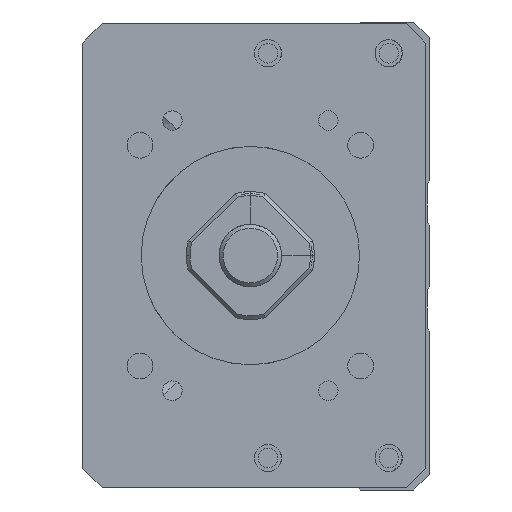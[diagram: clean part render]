
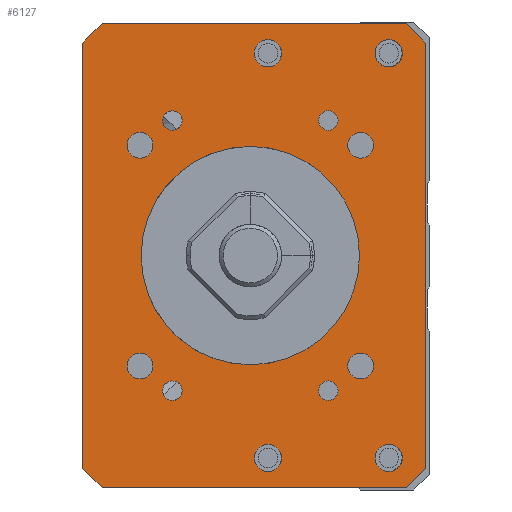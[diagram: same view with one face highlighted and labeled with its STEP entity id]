
A CAD part, left-side view. The second image highlights one B-rep face of the part: STEP entity #6127.
In plain terms, the highlighted planar face has unit normal (-1, 0, 0).
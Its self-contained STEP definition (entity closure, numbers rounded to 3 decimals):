
#3849=LINE('',#18542,#4664);
#3851=LINE('',#18566,#4666);
#3852=LINE('',#18568,#4667);
#3853=LINE('',#18570,#4668);
#3854=LINE('',#18572,#4669);
#3855=LINE('',#18574,#4670);
#3856=LINE('',#18576,#4671);
#3857=LINE('',#18578,#4672);
#4664=VECTOR('',#15530,1.);
#4666=VECTOR('',#15554,1.);
#4667=VECTOR('',#15555,1.);
#4668=VECTOR('',#15556,1.);
#4669=VECTOR('',#15557,1.);
#4670=VECTOR('',#15558,1.);
#4671=VECTOR('',#15559,1.);
#4672=VECTOR('',#15560,1.);
#5649=FACE_BOUND('',#7624,.T.);
#5650=FACE_BOUND('',#7625,.T.);
#5651=FACE_BOUND('',#7626,.T.);
#5652=FACE_BOUND('',#7627,.T.);
#5653=FACE_BOUND('',#7628,.T.);
#5654=FACE_BOUND('',#7629,.T.);
#5655=FACE_BOUND('',#7630,.T.);
#5656=FACE_BOUND('',#7631,.T.);
#5657=FACE_BOUND('',#7632,.T.);
#5658=FACE_BOUND('',#7633,.T.);
#5659=FACE_BOUND('',#7634,.T.);
#5660=FACE_BOUND('',#7635,.T.);
#5661=FACE_BOUND('',#7636,.T.);
#5662=FACE_BOUND('',#7637,.T.);
#6127=ADVANCED_FACE('',(#5649,#5650,#5651,#5652,#5653,#5654,#5655,#5656,
#5657,#5658,#5659,#5660,#5661,#5662),#6697,.F.);
#6697=PLANE('',#14136);
#7624=EDGE_LOOP('',(#8893));
#7625=EDGE_LOOP('',(#8894));
#7626=EDGE_LOOP('',(#8895));
#7627=EDGE_LOOP('',(#8896));
#7628=EDGE_LOOP('',(#8897));
#7629=EDGE_LOOP('',(#8898));
#7630=EDGE_LOOP('',(#8899));
#7631=EDGE_LOOP('',(#8900));
#7632=EDGE_LOOP('',(#8901));
#7633=EDGE_LOOP('',(#8902,#8903,#8904,#8905,#8906,#8907,#8908,#8909));
#7634=EDGE_LOOP('',(#8910));
#7635=EDGE_LOOP('',(#8911));
#7636=EDGE_LOOP('',(#8912));
#7637=EDGE_LOOP('',(#8913));
#8893=ORIENTED_EDGE('',*,*,#12403,.F.);
#8894=ORIENTED_EDGE('',*,*,#12404,.F.);
#8895=ORIENTED_EDGE('',*,*,#12405,.F.);
#8896=ORIENTED_EDGE('',*,*,#12406,.F.);
#8897=ORIENTED_EDGE('',*,*,#12407,.F.);
#8898=ORIENTED_EDGE('',*,*,#12408,.T.);
#8899=ORIENTED_EDGE('',*,*,#12409,.F.);
#8900=ORIENTED_EDGE('',*,*,#12410,.F.);
#8901=ORIENTED_EDGE('',*,*,#12411,.F.);
#8902=ORIENTED_EDGE('',*,*,#12400,.T.);
#8903=ORIENTED_EDGE('',*,*,#12412,.T.);
#8904=ORIENTED_EDGE('',*,*,#12413,.F.);
#8905=ORIENTED_EDGE('',*,*,#12414,.T.);
#8906=ORIENTED_EDGE('',*,*,#12415,.F.);
#8907=ORIENTED_EDGE('',*,*,#12416,.T.);
#8908=ORIENTED_EDGE('',*,*,#12417,.T.);
#8909=ORIENTED_EDGE('',*,*,#12418,.T.);
#8910=ORIENTED_EDGE('',*,*,#12419,.F.);
#8911=ORIENTED_EDGE('',*,*,#12420,.F.);
#8912=ORIENTED_EDGE('',*,*,#12421,.F.);
#8913=ORIENTED_EDGE('',*,*,#12380,.F.);
#11319=VERTEX_POINT('',#18481);
#11339=VERTEX_POINT('',#18541);
#11340=VERTEX_POINT('',#18543);
#11342=VERTEX_POINT('',#18549);
#11343=VERTEX_POINT('',#18551);
#11344=VERTEX_POINT('',#18553);
#11345=VERTEX_POINT('',#18555);
#11346=VERTEX_POINT('',#18557);
#11347=VERTEX_POINT('',#18559);
#11348=VERTEX_POINT('',#18561);
#11349=VERTEX_POINT('',#18563);
#11350=VERTEX_POINT('',#18565);
#11351=VERTEX_POINT('',#18567);
#11352=VERTEX_POINT('',#18569);
#11353=VERTEX_POINT('',#18571);
#11354=VERTEX_POINT('',#18573);
#11355=VERTEX_POINT('',#18575);
#11356=VERTEX_POINT('',#18577);
#11357=VERTEX_POINT('',#18580);
#11358=VERTEX_POINT('',#18582);
#11359=VERTEX_POINT('',#18584);
#12380=EDGE_CURVE('',#11319,#11319,#13605,.T.);
#12400=EDGE_CURVE('',#11340,#11339,#3849,.T.);
#12403=EDGE_CURVE('',#11342,#11342,#13614,.T.);
#12404=EDGE_CURVE('',#11343,#11343,#13615,.T.);
#12405=EDGE_CURVE('',#11344,#11344,#13616,.T.);
#12406=EDGE_CURVE('',#11345,#11345,#13617,.T.);
#12407=EDGE_CURVE('',#11346,#11346,#13618,.T.);
#12408=EDGE_CURVE('',#11347,#11347,#13619,.T.);
#12409=EDGE_CURVE('',#11348,#11348,#13620,.T.);
#12410=EDGE_CURVE('',#11349,#11349,#13621,.T.);
#12411=EDGE_CURVE('',#11350,#11350,#13622,.T.);
#12412=EDGE_CURVE('',#11339,#11351,#3851,.T.);
#12413=EDGE_CURVE('',#11352,#11351,#3852,.T.);
#12414=EDGE_CURVE('',#11352,#11353,#3853,.T.);
#12415=EDGE_CURVE('',#11354,#11353,#3854,.T.);
#12416=EDGE_CURVE('',#11354,#11355,#3855,.T.);
#12417=EDGE_CURVE('',#11355,#11356,#3856,.T.);
#12418=EDGE_CURVE('',#11356,#11340,#3857,.T.);
#12419=EDGE_CURVE('',#11357,#11357,#13623,.T.);
#12420=EDGE_CURVE('',#11358,#11358,#13624,.T.);
#12421=EDGE_CURVE('',#11359,#11359,#13625,.T.);
#13605=CIRCLE('',#14113,14.);
#13614=CIRCLE('',#14124,1.65);
#13615=CIRCLE('',#14125,1.65);
#13616=CIRCLE('',#14126,1.65);
#13617=CIRCLE('',#14127,1.65);
#13618=CIRCLE('',#14128,1.25);
#13619=CIRCLE('',#14129,1.75);
#13620=CIRCLE('',#14130,1.25);
#13621=CIRCLE('',#14131,1.75);
#13622=CIRCLE('',#14132,1.25);
#13623=CIRCLE('',#14133,1.75);
#13624=CIRCLE('',#14134,1.75);
#13625=CIRCLE('',#14135,1.25);
#14113=AXIS2_PLACEMENT_3D('',#18480,#15504,#15505);
#14124=AXIS2_PLACEMENT_3D('',#18548,#15536,#15537);
#14125=AXIS2_PLACEMENT_3D('',#18550,#15538,#15539);
#14126=AXIS2_PLACEMENT_3D('',#18552,#15540,#15541);
#14127=AXIS2_PLACEMENT_3D('',#18554,#15542,#15543);
#14128=AXIS2_PLACEMENT_3D('',#18556,#15544,#15545);
#14129=AXIS2_PLACEMENT_3D('',#18558,#15546,#15547);
#14130=AXIS2_PLACEMENT_3D('',#18560,#15548,#15549);
#14131=AXIS2_PLACEMENT_3D('',#18562,#15550,#15551);
#14132=AXIS2_PLACEMENT_3D('',#18564,#15552,#15553);
#14133=AXIS2_PLACEMENT_3D('',#18579,#15561,#15562);
#14134=AXIS2_PLACEMENT_3D('',#18581,#15563,#15564);
#14135=AXIS2_PLACEMENT_3D('',#18583,#15565,#15566);
#14136=AXIS2_PLACEMENT_3D('',#18585,#15567,#15568);
#15504=DIRECTION('',(-1.,0.,0.));
#15505=DIRECTION('',(0.,1.,0.));
#15530=DIRECTION('',(0.,0.,-1.));
#15536=DIRECTION('',(-1.,0.,0.));
#15537=DIRECTION('',(0.,0.,1.));
#15538=DIRECTION('',(-1.,0.,0.));
#15539=DIRECTION('',(0.,0.,1.));
#15540=DIRECTION('',(-1.,0.,0.));
#15541=DIRECTION('',(0.,0.,1.));
#15542=DIRECTION('',(-1.,0.,0.));
#15543=DIRECTION('',(0.,0.,1.));
#15544=DIRECTION('',(-1.,0.,0.));
#15545=DIRECTION('',(0.,1.,0.));
#15546=DIRECTION('',(1.,0.,0.));
#15547=DIRECTION('',(0.,0.,1.));
#15548=DIRECTION('',(-1.,0.,0.));
#15549=DIRECTION('',(0.,1.,0.));
#15550=DIRECTION('',(-1.,0.,0.));
#15551=DIRECTION('',(0.,0.,1.));
#15552=DIRECTION('',(-1.,0.,0.));
#15553=DIRECTION('',(0.,1.,0.));
#15554=DIRECTION('',(0.,-0.707,-0.707));
#15555=DIRECTION('',(0.,1.,0.));
#15556=DIRECTION('',(0.,-0.707,0.707));
#15557=DIRECTION('',(0.,0.,-1.));
#15558=DIRECTION('',(0.,0.707,0.707));
#15559=DIRECTION('',(0.,1.,0.));
#15560=DIRECTION('',(0.,0.707,-0.707));
#15561=DIRECTION('',(-1.,0.,0.));
#15562=DIRECTION('',(0.,0.,1.));
#15563=DIRECTION('',(-1.,0.,0.));
#15564=DIRECTION('',(0.,0.,1.));
#15565=DIRECTION('',(-1.,0.,0.));
#15566=DIRECTION('',(0.,1.,0.));
#15567=DIRECTION('',(1.,0.,0.));
#15568=DIRECTION('',(0.,1.,0.));
#18480=CARTESIAN_POINT('',(-211.,0.,-200.));
#18481=CARTESIAN_POINT('',(-211.,14.,-200.));
#18541=CARTESIAN_POINT('',(-211.,21.499,-227.25));
#18542=CARTESIAN_POINT('',(-211.,21.499,-170.25));
#18543=CARTESIAN_POINT('',(-211.,21.499,-172.75));
#18548=CARTESIAN_POINT('',(-211.,14.142,-185.858));
#18549=CARTESIAN_POINT('',(-211.,14.142,-184.208));
#18550=CARTESIAN_POINT('',(-211.,-14.142,-185.858));
#18551=CARTESIAN_POINT('',(-211.,-14.142,-184.208));
#18552=CARTESIAN_POINT('',(-211.,14.142,-214.142));
#18553=CARTESIAN_POINT('',(-211.,14.142,-212.492));
#18554=CARTESIAN_POINT('',(-211.,-14.142,-214.142));
#18555=CARTESIAN_POINT('',(-211.,-14.142,-212.492));
#18556=CARTESIAN_POINT('',(-211.,-10.,-217.321));
#18557=CARTESIAN_POINT('',(-211.,-8.75,-217.321));
#18558=CARTESIAN_POINT('',(-211.,-2.25,-225.936));
#18559=CARTESIAN_POINT('',(-211.,-2.25,-224.186));
#18560=CARTESIAN_POINT('',(-211.,10.,-182.679));
#18561=CARTESIAN_POINT('',(-211.,11.25,-182.679));
#18562=CARTESIAN_POINT('',(-211.,-2.25,-174.064));
#18563=CARTESIAN_POINT('',(-211.,-2.25,-172.314));
#18564=CARTESIAN_POINT('',(-211.,10.,-217.321));
#18565=CARTESIAN_POINT('',(-211.,11.25,-217.321));
#18566=CARTESIAN_POINT('',(-211.,18.999,-229.75));
#18567=CARTESIAN_POINT('',(-211.,18.999,-229.75));
#18568=CARTESIAN_POINT('',(-211.,-22.501,-229.75));
#18569=CARTESIAN_POINT('',(-211.,-20.001,-229.75));
#18570=CARTESIAN_POINT('',(-211.,-22.501,-227.25));
#18571=CARTESIAN_POINT('',(-211.,-22.501,-227.25));
#18572=CARTESIAN_POINT('',(-211.,-22.501,-170.25));
#18573=CARTESIAN_POINT('',(-211.,-22.501,-172.75));
#18574=CARTESIAN_POINT('',(-211.,-22.501,-172.75));
#18575=CARTESIAN_POINT('',(-211.,-20.001,-170.25));
#18576=CARTESIAN_POINT('',(-211.,-22.501,-170.25));
#18577=CARTESIAN_POINT('',(-211.,18.999,-170.25));
#18578=CARTESIAN_POINT('',(-211.,18.999,-170.25));
#18579=CARTESIAN_POINT('',(-211.,-17.75,-174.064));
#18580=CARTESIAN_POINT('',(-211.,-17.75,-172.314));
#18581=CARTESIAN_POINT('',(-211.,-17.75,-225.936));
#18582=CARTESIAN_POINT('',(-211.,-17.75,-224.186));
#18583=CARTESIAN_POINT('',(-211.,-10.,-182.679));
#18584=CARTESIAN_POINT('',(-211.,-8.75,-182.679));
#18585=CARTESIAN_POINT('',(-211.,-22.501,-170.25));
